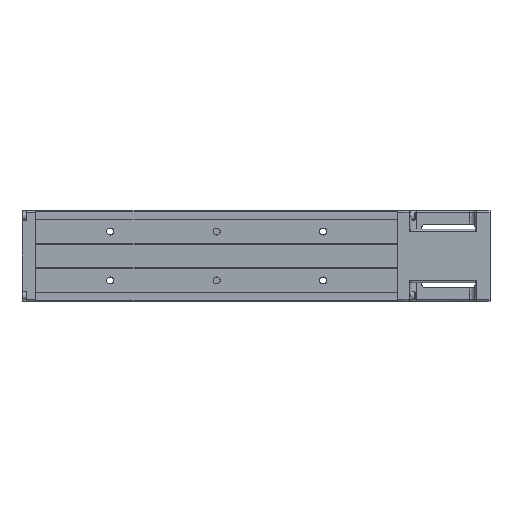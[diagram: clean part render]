
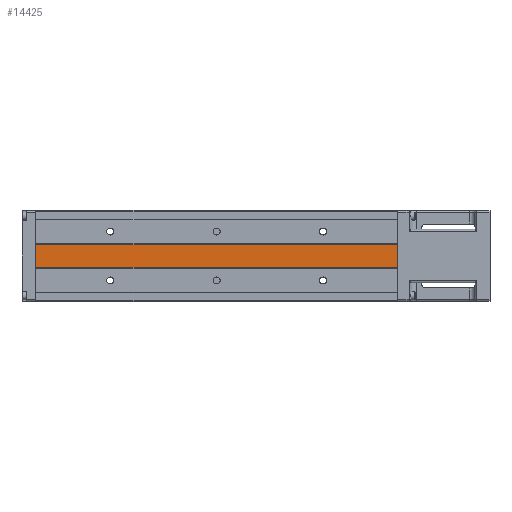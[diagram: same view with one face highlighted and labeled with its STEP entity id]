
A CAD part, front view. The second image highlights one B-rep face of the part: STEP entity #14425.
In plain terms, the highlighted planar face has unit normal (0, -1, 0).
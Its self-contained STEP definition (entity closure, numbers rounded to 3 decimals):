
#1131 = CARTESIAN_POINT ( 'NONE',  ( 120., -31.5, 11. ) ) ;
#1232 = CARTESIAN_POINT ( 'NONE',  ( 120., -31.5, -11. ) ) ;
#1270 = DIRECTION ( 'NONE',  ( 0., 0., -1. ) ) ;
#1931 = DIRECTION ( 'NONE',  ( -1., 0., 0. ) ) ;
#1994 = VERTEX_POINT ( 'NONE', #3765 ) ;
#3000 = VERTEX_POINT ( 'NONE', #3094 ) ;
#3094 = CARTESIAN_POINT ( 'NONE',  ( -220., -31.5, 11. ) ) ;
#3154 = ORIENTED_EDGE ( 'NONE', *, *, #5997, .T. ) ;
#3427 = ORIENTED_EDGE ( 'NONE', *, *, #10764, .F. ) ;
#3480 = LINE ( 'NONE', #8100, #12981 ) ;
#3765 = CARTESIAN_POINT ( 'NONE',  ( -220., -31.5, -11. ) ) ;
#4194 = DIRECTION ( 'NONE',  ( 1., 0., 0. ) ) ;
#4751 = VERTEX_POINT ( 'NONE', #1232 ) ;
#4966 = LINE ( 'NONE', #6287, #12302 ) ;
#5033 = DIRECTION ( 'NONE',  ( 1., 0., 0. ) ) ;
#5394 = EDGE_CURVE ( 'NONE', #3000, #1994, #3480, .T. ) ;
#5803 = ORIENTED_EDGE ( 'NONE', *, *, #5394, .T. ) ;
#5997 = EDGE_CURVE ( 'NONE', #1994, #4751, #4966, .T. ) ;
#6287 = CARTESIAN_POINT ( 'NONE',  ( -620., -31.5, -11. ) ) ;
#6378 = FACE_OUTER_BOUND ( 'NONE', #6711, .T. ) ;
#6571 = VERTEX_POINT ( 'NONE', #1131 ) ;
#6711 = EDGE_LOOP ( 'NONE', ( #5803, #3154, #14401, #3427 ) ) ;
#7137 = CARTESIAN_POINT ( 'NONE',  ( -620., -31.5, 11. ) ) ;
#7815 = CARTESIAN_POINT ( 'NONE',  ( 120., -31.5, 11. ) ) ;
#8100 = CARTESIAN_POINT ( 'NONE',  ( -220., -31.5, -5.5 ) ) ;
#8888 = VECTOR ( 'NONE', #12150, 1000. ) ;
#10463 = EDGE_CURVE ( 'NONE', #6571, #4751, #13018, .T. ) ;
#10764 = EDGE_CURVE ( 'NONE', #3000, #6571, #15389, .T. ) ;
#12150 = DIRECTION ( 'NONE',  ( 0., 0., -1. ) ) ;
#12302 = VECTOR ( 'NONE', #5033, 1000. ) ;
#12981 = VECTOR ( 'NONE', #1270, 1000. ) ;
#13018 = LINE ( 'NONE', #7815, #8888 ) ;
#14200 = CARTESIAN_POINT ( 'NONE',  ( 120., -31.5, -11. ) ) ;
#14401 = ORIENTED_EDGE ( 'NONE', *, *, #10463, .F. ) ;
#14425 = ADVANCED_FACE ( 'NONE', ( #6378 ), #15683, .T. ) ;
#14437 = DIRECTION ( 'NONE',  ( 0., -1., 0. ) ) ;
#14531 = VECTOR ( 'NONE', #4194, 1000. ) ;
#15389 = LINE ( 'NONE', #7137, #14531 ) ;
#15683 = PLANE ( 'NONE',  #16494 ) ;
#16494 = AXIS2_PLACEMENT_3D ( 'NONE', #14200, #14437, #1931 ) ;
